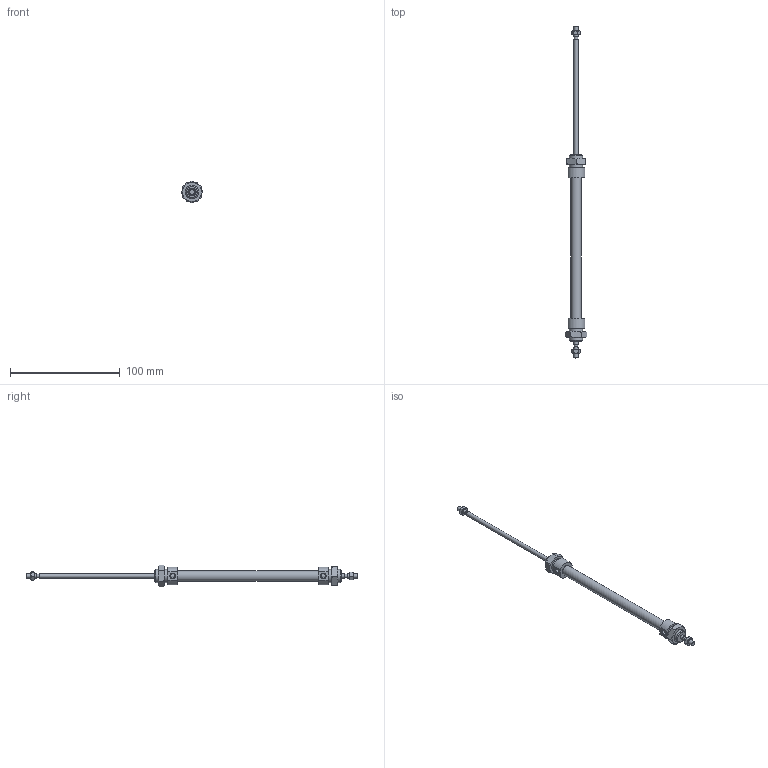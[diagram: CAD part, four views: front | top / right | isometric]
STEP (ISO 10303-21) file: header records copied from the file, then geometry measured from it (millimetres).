
FILE_DESCRIPTION((''),'2;1');
FILE_NAME('I:\Area Tecnica\Disegni\VARIE-3D\Componenti\1280\1282_##_####_#\1282_08_0100.iam.stp','2009-06-03T15:23:25',(''),(''),'Autodesk Inventor 2010','Autodesk Inventor 2010','');
FILE_SCHEMA(('AUTOMOTIVE_DESIGN { 1 0 10303 214 1 1 1 1 }'));
Length unit declared in the file: millimetre
Products named in the file (5): 1282_08_0100; C1282_08_100; S1282_08_100; 1200_08_05; 1200_08_06
Assembly tree (6 placements, depth 2):
  1282_08_0100
    C1282_08_100
    S1282_08_100
    1200_08_05  x2
    1200_08_06  x2
Bounding box: 19.63 x 302 x 19.63 mm (x, y, z)
Volume: 18111.8 mm3; surface area: 14027.8 mm2
Topology: 6 solids, 6 shells, 127 faces, 271 edges, 162 vertices
Faces by surface type: cone 52, plane 46, bspline 18, cylinder 11
Full cylindrical faces by diameter (mm): 3.5 x2, 4 x4, 9.2 x1, 12 x2
Entity records: 2371 total; most frequent: CARTESIAN_POINT 641, DIRECTION 310, ORIENTED_EDGE 280, AXIS2_PLACEMENT_3D 143, EDGE_CURVE 140, EDGE_LOOP 120, VERTEX_POINT 96, STYLED_ITEM 85
